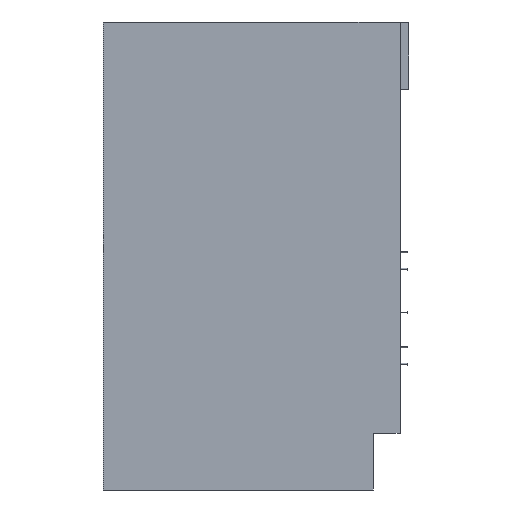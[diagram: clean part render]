
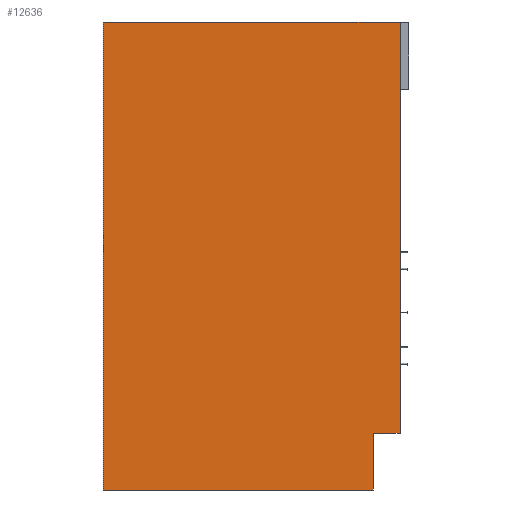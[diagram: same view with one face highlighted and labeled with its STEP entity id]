
A CAD part, left-side view. The second image highlights one B-rep face of the part: STEP entity #12636.
In plain terms, the highlighted planar face has unit normal (-1, 0, 0).
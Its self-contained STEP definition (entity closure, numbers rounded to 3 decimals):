
#10635=DIRECTION('',(0.,0.,1.));
#10636=VECTOR('',#10635,762.);
#10637=CARTESIAN_POINT('',(-275.,0.,-16.));
#10638=LINE('',#10637,#10636);
#10687=DIRECTION('',(0.,-1.,0.));
#10688=VECTOR('',#10687,50.);
#10689=CARTESIAN_POINT('',(-275.,50.,-16.));
#10690=LINE('',#10689,#10688);
#10699=DIRECTION('',(0.,0.,1.));
#10700=VECTOR('',#10699,105.);
#10701=CARTESIAN_POINT('',(-275.,50.,-121.));
#10702=LINE('',#10701,#10700);
#10707=DIRECTION('',(0.,-1.,0.));
#10708=VECTOR('',#10707,500.);
#10709=CARTESIAN_POINT('',(-275.,550.,-121.));
#10710=LINE('',#10709,#10708);
#11007=DIRECTION('',(0.,1.,0.));
#11008=VECTOR('',#11007,550.);
#11009=CARTESIAN_POINT('',(-275.,0.,746.));
#11010=LINE('',#11009,#11008);
#11019=DIRECTION('',(0.,0.,-1.));
#11020=VECTOR('',#11019,867.);
#11021=CARTESIAN_POINT('',(-275.,550.,746.));
#11022=LINE('',#11021,#11020);
#11625=CARTESIAN_POINT('',(-275.,550.,-121.));
#11626=VERTEX_POINT('',#11625);
#11627=CARTESIAN_POINT('',(-275.,50.,-121.));
#11628=VERTEX_POINT('',#11627);
#11633=CARTESIAN_POINT('',(-275.,550.,746.));
#11634=VERTEX_POINT('',#11633);
#11635=CARTESIAN_POINT('',(-275.,0.,746.));
#11636=VERTEX_POINT('',#11635);
#11637=CARTESIAN_POINT('',(-275.,0.,-16.));
#11638=VERTEX_POINT('',#11637);
#11639=CARTESIAN_POINT('',(-275.,50.,-16.));
#11640=VERTEX_POINT('',#11639);
#12622=CARTESIAN_POINT('',(-275.,550.,746.));
#12623=DIRECTION('',(1.,0.,0.));
#12624=DIRECTION('',(0.,0.,-1.));
#12625=AXIS2_PLACEMENT_3D('',#12622,#12623,#12624);
#12626=PLANE('',#12625);
#12628=ORIENTED_EDGE('',*,*,#12627,.F.);
#12629=ORIENTED_EDGE('',*,*,#12613,.F.);
#12630=ORIENTED_EDGE('',*,*,#12110,.F.);
#12631=ORIENTED_EDGE('',*,*,#12149,.F.);
#12632=ORIENTED_EDGE('',*,*,#12164,.F.);
#12633=ORIENTED_EDGE('',*,*,#12181,.F.);
#12634=EDGE_LOOP('',(#12628,#12629,#12630,#12631,#12632,#12633));
#12635=FACE_OUTER_BOUND('',#12634,.F.);
#12110=EDGE_CURVE('',#11638,#11636,#10638,.T.);
#12149=EDGE_CURVE('',#11640,#11638,#10690,.T.);
#12164=EDGE_CURVE('',#11628,#11640,#10702,.T.);
#12181=EDGE_CURVE('',#11626,#11628,#10710,.T.);
#12613=EDGE_CURVE('',#11636,#11634,#11010,.T.);
#12627=EDGE_CURVE('',#11634,#11626,#11022,.T.);
#12636=ADVANCED_FACE('',(#12635),#12626,.F.);
